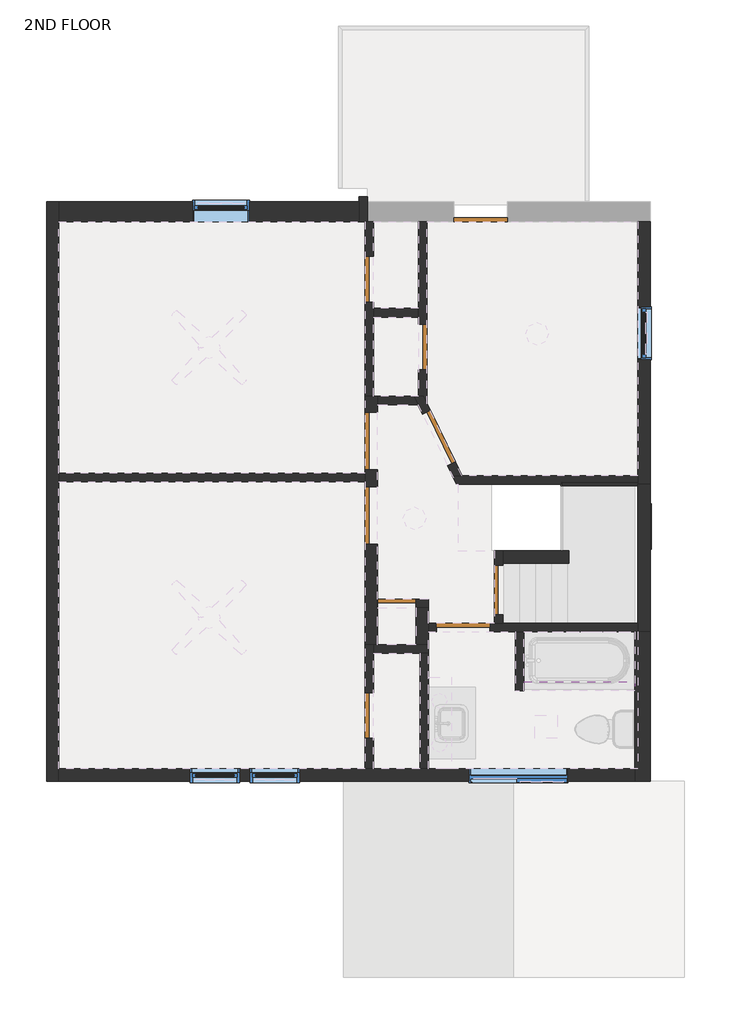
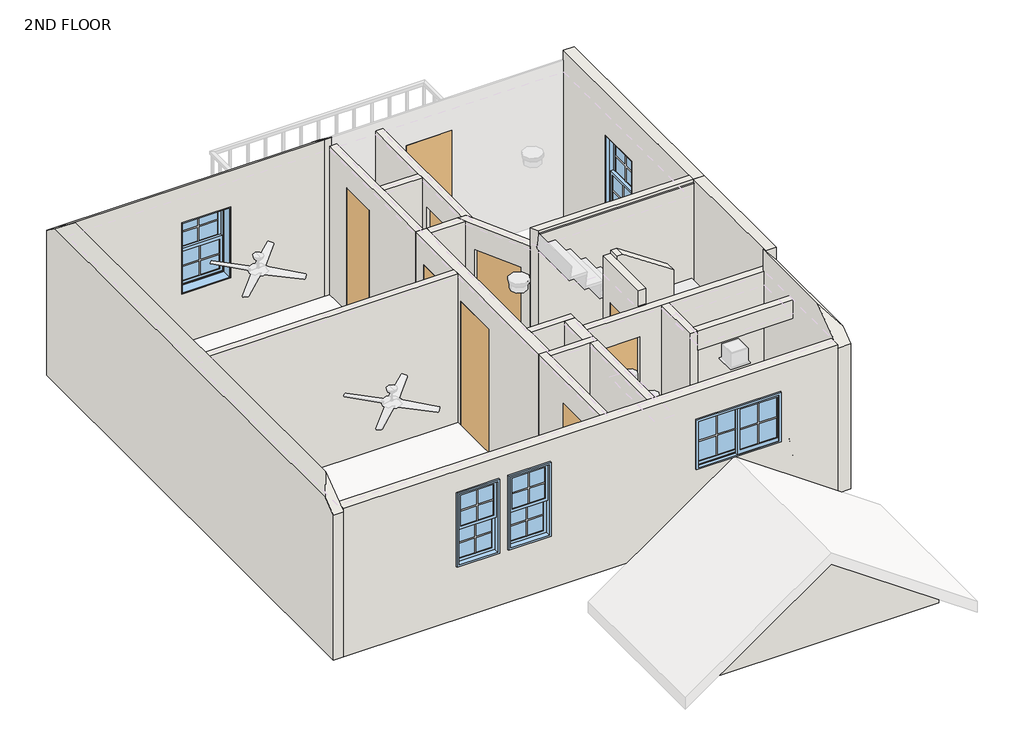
# One storey, part 1 of 2: 28 walls, 10 doors, 6 windows.
"""IFC4 building model written with IfcOpenShell, lengths in millimetres."""

from ifc_helpers import new_model, si_unit, frame, origin, place, context, project, spatial, polyline, outline, extrude, faceted_brep, transform, mapped, element, save
from components import door_faf8bfec, door_72e7b4df, door_38152ee4, door_aef79686, door_b2eef15f, door_485245ec, door_cfc43ca0, door_33e9856f, door_aa45f35f, window_1484e1a5, window_1f1c2442, window_dda3fa21, window_8e1bc891, window_968c96fe

model = new_model("IFC4")

# Units and contexts
model_context = context("Model", 3, world=origin())
ifc_project = project(units=[si_unit("LENGTHUNIT", "METRE", prefix="MILLI")], contexts=[model_context])

# Site, building, storey
site = spatial("IfcSite", under=ifc_project)
building = spatial("IfcBuilding", under=site)
storey = spatial("IfcBuildingStorey", under=building, Name="2ND FLOOR", Elevation=2895.6)

# Doors
placement = place(None, origin())
door_shape = door_faf8bfec(model_context)
element("IfcDoor", 1, ObjectType="Planitar - Single Door_Flush Panel : 2'-4\" x 6'-8\" @45", at=placement, inside=storey, context=model_context, shape_type="MappedRepresentation", body=[
    mapped(door_shape, transform((-509.2, 718.95, 2895.6), x_axis=(1.0, 0.0, 0.0), y_axis=(0.0, 1.0, 0.0), z_axis=(0.0, 0.0, 1.0))),
])
door_2_shape = door_72e7b4df(model_context)
element("IfcDoor", 2, ObjectType="Planitar - Single Door_Flush Panel : 2'-2\" x 6'-8\" @45", at=placement, inside=storey, context=model_context, shape_type="MappedRepresentation", body=[
    mapped(door_2_shape, transform((-39.3, 1220.6, 2895.6), x_axis=(0.0, -1.0, 0.0), y_axis=(1.0, 0.0, 0.0), z_axis=(0.0, 0.0, 1.0))),
])
door_3_shape = door_38152ee4(model_context)
element("IfcDoor", 3, ObjectType="Planitar - Single Door_Flush Panel : 1'-8\" x 6'-8\"", at=placement, inside=storey, context=model_context, shape_type="MappedRepresentation", body=[
    mapped(door_3_shape, transform((-1395.025, 1041.4, 2895.6), x_axis=(-1.0, 0.0, 0.0), y_axis=(0.0, -1.0, 0.0), z_axis=(0.0, 0.0, 1.0))),
])
door_4_shape = door_aef79686(model_context)
element("IfcDoor", 4, ObjectType="Planitar - Single Door_Flush Panel : 2'-0\" x 6'-8\"", at=placement, inside=storey, context=model_context, shape_type="MappedRepresentation", body=[
    mapped(door_4_shape, transform((-1760.15, 5354.45, 2895.6), x_axis=(0.0, 1.0, 0.0), y_axis=(-1.0, 0.0, 0.0), z_axis=(0.0, 0.0, 1.0))),
])
door_5_shape = door_b2eef15f(model_context)
element("IfcDoor", 5, ObjectType="Planitar - Single Door_Flush Panel : 2'-0\" x 6'-8\"", at=placement, inside=storey, context=model_context, shape_type="MappedRepresentation", body=[
    mapped(door_5_shape, transform((-1048.95, 4452.75, 2895.6), x_axis=(0.0, 1.0, 0.0), y_axis=(-1.0, 0.0, 0.0), z_axis=(0.0, 0.0, 1.0))),
])
element("IfcDoor", 6, ObjectType="Planitar - Single Door_Flush Panel : 2'-0\" x 6'-8\"", at=placement, inside=storey, context=model_context, shape_type="MappedRepresentation", body=[
    mapped(door_5_shape, transform((-1760.15, -449.45, 2895.6), x_axis=(0.0, -1.0, 0.0), y_axis=(1.0, 0.0, 0.0), z_axis=(0.0, 0.0, 1.0))),
])
door_6_shape = door_485245ec(model_context)
element("IfcDoor", 7, ObjectType="Planitar - Single Door_Flush Panel : 2'-4\" x 6'-8\"", at=placement, inside=storey, context=model_context, shape_type="MappedRepresentation", body=[
    mapped(door_6_shape, transform((-274.25, 6254.75, 2895.6), x_axis=(-1.0, 0.0, 0.0), y_axis=(0.0, -1.0, 0.0), z_axis=(0.0, 0.0, 1.0))),
])
door_7_shape = door_cfc43ca0(model_context)
element("IfcDoor", 8, ObjectType="Planitar - Single Door_Flush Panel : 2'-6\" x 6'-8\"", at=placement, inside=storey, context=model_context, shape_type="MappedRepresentation", body=[
    mapped(door_7_shape, transform((-1734.75, 2211.2, 2895.6), x_axis=(0.0, 1.0, 0.0), y_axis=(-1.0, 0.0, 0.0), z_axis=(0.0, 0.0, 1.0))),
])
door_8_shape = door_33e9856f(model_context)
element("IfcDoor", 9, ObjectType="Planitar - Single Door_Flush Panel : 2'-6\" x 6'-8\"", at=placement, inside=storey, context=model_context, shape_type="MappedRepresentation", body=[
    mapped(door_8_shape, transform((-1734.75, 3201.8, 2895.6), x_axis=(0.0, -1.0, 0.0), y_axis=(1.0, 0.0, 0.0), z_axis=(0.0, 0.0, 1.0))),
])
door_9_shape = door_aa45f35f(model_context)
element("IfcDoor", 10, ObjectType="Planitar - Single Door_Flush Panel : 2'-6\" x 6'-8\"", at=placement, inside=storey, context=model_context, shape_type="MappedRepresentation", body=[
    mapped(door_9_shape, transform((-833.0708063, 3241.3698882, 2895.6), x_axis=(0.4363531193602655, -0.8997755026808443, 0.0), y_axis=(0.8997755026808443, 0.4363531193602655, 0.0), z_axis=(0.0, 0.0, 1.0))),
])

# Walls
element("IfcWall", 11, ObjectType="Planitar - Generic 6 1/2\"", at=placement, inside=storey, context=model_context, shape_type="Brep", body=[
    faceted_brep([(-5894.0, -1327.15, 2895.6), (-5894.0, -1162.05, 2895.6), (-5894.0, 2662.05, 2895.6), (-5894.0, 2776.35, 2895.6), (-5894.0, 6121.4, 2895.6), (-5894.0, 6388.1, 2895.6), (-5894.0, 6388.1, 5275.8325877), (-5894.0, 6121.4, 5470.8422803), (-5894.0, 5897.0845627, 5634.8605948), (-5894.0, -836.1345627, 5634.8605948), (-5894.0, -1327.15, 5275.8325877), (-6059.1, -1327.15, 2895.6), (-6059.1, -1327.15, 5275.8325877), (-6059.1, -1105.226299, 5438.1020766), (-6059.1, 6166.176299, 5438.1020766), (-6059.1, 6388.1, 5275.8325877), (-6059.1, 6388.1, 2895.6)], [[[0, 1, 2, 3, 4, 5, 6, 7, 8, 9, 10]], [[11, 12, 13, 14, 15, 16]], [[5, 4, 3, 2, 1, 0, 11, 16]], [[6, 5, 16, 15]], [[0, 10, 12, 11]], [[10, 9, 13, 12]], [[9, 8, 14, 13]], [[8, 7, 6, 15, 14]]]),
])
element("IfcWall", 12, ObjectType="Planitar - Generic 10 1/2\"", at=placement, inside=storey, context=model_context, shape_type="Brep", body=[
    faceted_brep([(-5894.0, 6121.4, 2895.6), (-1899.85, 6121.4, 2895.6), (-1899.85, 6121.4, 5470.8422803), (-5894.0, 6121.4, 5470.8422803), (-4116.0, 6121.4, 4876.8), (-3354.0, 6121.4, 4876.8), (-3354.0, 6121.4, 3708.4), (-4116.0, 6121.4, 3708.4), (-5894.0, 6388.1, 2895.6), (-5894.0, 6388.1, 5275.8325877), (-2344.35, 6388.1, 5275.8325877), (-2230.05, 6388.1, 5275.8325877), (-1899.85, 6388.1, 5275.8325877), (-1899.85, 6388.1, 2895.6), (-4116.0, 6388.1, 4876.8), (-4116.0, 6388.1, 3708.4), (-3354.0, 6388.1, 3708.4), (-3354.0, 6388.1, 4876.8)], [[[0, 1, 2, 3], [4, 5, 6, 7]], [[8, 9, 10, 11, 12, 13], [14, 15, 16, 17]], [[1, 0, 8, 13]], [[0, 3, 9, 8]], [[15, 14, 4, 7]], [[16, 15, 7, 6]], [[17, 16, 6, 5]], [[14, 17, 5, 4]], [[3, 2, 12, 11, 10, 9]], [[2, 1, 13, 12]]]),
])
element("IfcWall", 13, ObjectType="Planitar - Generic 6 1/2\"", at=placement, inside=storey, context=model_context, shape_type="Brep", body=[
    faceted_brep([(1814.9, 6121.4, 2895.6), (1814.9, 2738.25, 2895.6), (1814.9, 2623.95, 2895.6), (1814.9, 2623.95, 5638.8), (1814.9, 2738.25, 5638.8), (1814.9, 6121.4, 5638.8), (1814.9, 4992.5, 4927.6), (1814.9, 4281.3, 4927.6), (1814.9, 4281.3, 3708.4), (1814.9, 4992.5, 3708.4), (1980.0, 6121.4, 2895.6), (1980.0, 6121.4, 5438.1020766), (1980.0, 6121.4, 5638.8), (1980.0, 2623.95, 5638.8), (1980.0, 2623.95, 2895.6), (1980.0, 4992.5, 4927.6), (1980.0, 4992.5, 3708.4), (1980.0, 4281.3, 3708.4), (1980.0, 4281.3, 4927.6)], [[[0, 1, 2, 3, 4, 5], [6, 7, 8, 9]], [[10, 11, 12, 13, 14], [15, 16, 17, 18]], [[2, 1, 0, 10, 14]], [[5, 4, 3, 13, 12]], [[0, 5, 12, 11, 10]], [[16, 15, 6, 9]], [[17, 16, 9, 8]], [[18, 17, 8, 7]], [[15, 18, 7, 6]], [[2, 14, 13, 3]]]),
])
element("IfcWall", 14, ObjectType="Planitar - Generic 6 1/2\"", at=placement, inside=storey, context=model_context, shape_type="Brep", body=[
    faceted_brep([(1776.8, -1162.05, 2895.6), (-972.75, -1162.05, 2895.6), (-1087.05, -1162.05, 2895.6), (-1703.0, -1162.05, 2895.6), (-1817.3, -1162.05, 2895.6), (-5894.0, -1162.05, 2895.6), (-5894.0, -1162.05, 5334.0), (-1817.3, -1162.05, 5334.0), (-1703.0, -1162.05, 5334.0), (-1087.05, -1162.05, 5334.0), (-972.75, -1162.05, 5334.0), (1776.8, -1162.05, 5334.0), (-433.0, -1162.05, 4876.8), (-433.0, -1162.05, 4064.0), (887.8, -1162.05, 4064.0), (887.8, -1162.05, 4876.8), (-2687.25, -1162.05, 4978.4), (-3347.65, -1162.05, 4978.4), (-3347.65, -1162.05, 3759.2), (-2687.25, -1162.05, 3759.2), (-3487.35, -1162.05, 4978.4), (-4147.75, -1162.05, 4978.4), (-4147.75, -1162.05, 3759.2), (-3487.35, -1162.05, 3759.2), (1776.8, -1327.15, 2895.6), (1776.8, -1327.15, 5275.8325877), (1776.8, -1327.15, 5334.0), (-5894.0, -1327.15, 5334.0), (-5894.0, -1327.15, 5275.8325877), (-5894.0, -1327.15, 2895.6), (-433.0, -1327.15, 4876.8), (887.8, -1327.15, 4876.8), (887.8, -1327.15, 4064.0), (-433.0, -1327.15, 4064.0), (-2687.25, -1327.15, 4978.4), (-2687.25, -1327.15, 3759.2), (-3347.65, -1327.15, 3759.2), (-3347.65, -1327.15, 4978.4), (-3487.35, -1327.15, 4978.4), (-3487.35, -1327.15, 3759.2), (-4147.75, -1327.15, 3759.2), (-4147.75, -1327.15, 4978.4)], [[[0, 1, 2, 3, 4, 5, 6, 7, 8, 9, 10, 11], [12, 13, 14, 15], [16, 17, 18, 19], [20, 21, 22, 23]], [[24, 25, 26, 27, 28, 29], [30, 31, 32, 33], [34, 35, 36, 37], [38, 39, 40, 41]], [[0, 11, 26, 25, 24]], [[6, 5, 29, 28, 27]], [[13, 12, 30, 33]], [[14, 13, 33, 32]], [[15, 14, 32, 31]], [[12, 15, 31, 30]], [[35, 34, 16, 19]], [[36, 35, 19, 18]], [[37, 36, 18, 17]], [[34, 37, 17, 16]], [[39, 38, 20, 23]], [[40, 39, 23, 22]], [[41, 40, 22, 21]], [[38, 41, 21, 20]], [[5, 4, 3, 2, 1, 0, 24, 29]], [[11, 10, 9, 8, 7, 6, 27, 26]]]),
])
element("IfcWall", 15, ObjectType="Planitar - Generic 4 1/2\"", at=placement, inside=storey, context=model_context, shape_type="Brep", body=[
    faceted_brep([(-1703.0, -1162.05, 2895.6), (-1703.0, -754.25, 2895.6), (-1703.0, -754.25, 4927.6), (-1703.0, -144.65, 4927.6), (-1703.0, -144.65, 2895.6), (-1703.0, 374.65, 2895.6), (-1703.0, 488.95, 2895.6), (-1703.0, 488.95, 5334.0), (-1703.0, 374.65, 5334.0), (-1703.0, -1162.05, 5334.0), (-1817.3, -754.25, 4927.6), (-1817.3, -754.25, 2895.6), (-1817.3, -1162.05, 2895.6), (-1817.3, -1162.05, 5334.0), (-1817.3, 488.95, 5334.0), (-1817.3, 488.95, 2895.6), (-1817.3, -144.65, 2895.6), (-1817.3, -144.65, 4927.6)], [[[0, 1, 2, 3, 4, 5, 6, 7, 8, 9]], [[10, 11, 12, 13, 14, 15, 16, 17]], [[16, 15, 6, 5, 4]], [[12, 11, 1, 0]], [[9, 8, 7, 14, 13]], [[0, 9, 13, 12]], [[7, 6, 15, 14]], [[2, 1, 11, 10]], [[3, 2, 10, 17]], [[4, 3, 17, 16]]]),
])
element("IfcWall", 16, ObjectType="Planitar - Generic 4 1/2\"", at=placement, inside=storey, context=model_context, shape_type="SweptSolid", body=[
    extrude(outline(polyline([(-1817.3, 2662.05), (-5894.0, 2662.05), (-5894.0, 2776.35), (-1817.3, 2776.35), (-1817.3, 2662.05)])), frame((0.0, 0.0, 2895.6), z_axis=(0.0, 0.0, 1.0), x_axis=(1.0, 0.0, 0.0)), (0.0, 0.0, 1.0), 2438.4),
])
element("IfcWall", 17, ObjectType="Planitar - Generic 6 1/2\"", at=placement, inside=storey, context=model_context, shape_type="Brep", body=[
    faceted_brep([(-1652.2, 2592.2, 2895.6), (-1652.2, 2820.8, 2895.6), (-1652.2, 2820.8, 4927.6), (-1652.2, 3582.8, 4927.6), (-1652.2, 3582.8, 2895.6), (-1652.2, 3684.4, 2895.6), (-1652.2, 3798.7, 2895.6), (-1652.2, 3798.7, 5334.0), (-1652.2, 3684.4, 5334.0), (-1652.2, 1098.55, 5334.0), (-1652.2, 984.25, 5334.0), (-1652.2, 488.95, 5334.0), (-1652.2, 488.95, 2895.6), (-1652.2, 984.25, 2895.6), (-1652.2, 1098.55, 2895.6), (-1652.2, 1830.2, 2895.6), (-1652.2, 1830.2, 4927.6), (-1652.2, 2592.2, 4927.6), (-1817.3, 2820.8, 4927.6), (-1817.3, 2820.8, 2895.6), (-1817.3, 2776.35, 2895.6), (-1817.3, 2662.05, 2895.6), (-1817.3, 2592.2, 2895.6), (-1817.3, 2592.2, 4927.6), (-1817.3, 1830.2, 4927.6), (-1817.3, 1830.2, 2895.6), (-1817.3, 488.95, 2895.6), (-1817.3, 488.95, 5334.0), (-1817.3, 2662.05, 5334.0), (-1817.3, 2776.35, 5334.0), (-1817.3, 3798.7, 5334.0), (-1817.3, 3798.7, 2895.6), (-1817.3, 3582.8, 2895.6), (-1817.3, 3582.8, 4927.6), (-1703.0, 488.95, 2895.6), (-1703.0, 3798.7, 2895.6), (-1703.0, 3798.7, 5334.0), (-1703.0, 488.95, 5334.0)], [[[0, 1, 2, 3, 4, 5, 6, 7, 8, 9, 10, 11, 12, 13, 14, 15, 16, 17]], [[18, 19, 20, 21, 22, 23, 24, 25, 26, 27, 28, 29, 30, 31, 32, 33]], [[15, 14, 13, 12, 34, 26, 25]], [[32, 31, 35, 6, 5, 4]], [[22, 21, 20, 19, 1, 0]], [[11, 10, 9, 8, 7, 36, 30, 29, 28, 27, 37]], [[12, 11, 37, 27, 26, 34]], [[7, 6, 35, 31, 30, 36]], [[23, 22, 0, 17]], [[24, 23, 17, 16]], [[25, 24, 16, 15]], [[2, 1, 19, 18]], [[3, 2, 18, 33]], [[4, 3, 33, 32]]]),
])
element("IfcWall", 18, ObjectType="Planitar - Generic 4 1/2\"", at=placement, inside=storey, context=model_context, shape_type="Brep", body=[
    faceted_brep([(-1703.0, 5659.25, 4927.6), (-1703.0, 5659.25, 2895.6), (-1703.0, 6121.4, 2895.6), (-1703.0, 6121.4, 5334.0), (-1703.0, 4967.1, 5334.0), (-1703.0, 4852.8, 5334.0), (-1703.0, 3798.7, 5334.0), (-1703.0, 3798.7, 2895.6), (-1703.0, 4852.8, 2895.6), (-1703.0, 4967.1, 2895.6), (-1703.0, 5049.65, 2895.6), (-1703.0, 5049.65, 4927.6), (-1817.3, 6121.4, 2895.6), (-1817.3, 5659.25, 2895.6), (-1817.3, 5659.25, 4927.6), (-1817.3, 5049.65, 4927.6), (-1817.3, 5049.65, 2895.6), (-1817.3, 3798.7, 2895.6), (-1817.3, 3798.7, 5334.0), (-1817.3, 6121.4, 5334.0), (-1785.55, 6121.4, 2895.6)], [[[0, 1, 2, 3, 4, 5, 6, 7, 8, 9, 10, 11]], [[12, 13, 14, 15, 16, 17, 18, 19]], [[2, 1, 13, 12, 20]], [[10, 9, 8, 7, 17, 16]], [[6, 5, 4, 3, 19, 18]], [[7, 6, 18, 17]], [[14, 13, 1, 0]], [[15, 14, 0, 11]], [[16, 15, 11, 10]], [[3, 2, 20, 12, 19]]]),
])
element("IfcWall", 19, ObjectType="Planitar - Generic 4 1/2\"", at=placement, inside=storey, context=model_context, shape_type="Brep", body=[
    faceted_brep([(-1703.0, 374.65, 2895.6), (-1087.05, 374.65, 2895.6), (-972.75, 374.65, 2895.6), (-972.75, 374.65, 5334.0), (-1087.05, 374.65, 5334.0), (-1703.0, 374.65, 5334.0), (-1703.0, 488.95, 2895.6), (-1703.0, 488.95, 5334.0), (-1652.2, 488.95, 5334.0), (-1137.85, 488.95, 5334.0), (-972.75, 488.95, 5334.0), (-972.75, 488.95, 2895.6), (-1137.85, 488.95, 2895.6), (-1652.2, 488.95, 2895.6)], [[[0, 1, 2, 3, 4, 5]], [[6, 7, 8, 9, 10, 11, 12, 13]], [[2, 1, 0, 6, 13, 12, 11]], [[5, 4, 3, 10, 9, 8, 7]], [[3, 2, 11, 10]], [[0, 5, 7, 6]]]),
])
element("IfcWall", 20, ObjectType="Planitar - Generic 6 1/2\"", at=placement, inside=storey, context=model_context, shape_type="Brep", body=[
    faceted_brep([(-1137.85, 984.25, 2895.6), (-1137.85, 488.95, 2895.6), (-1137.85, 488.95, 5334.0), (-1137.85, 984.25, 5334.0), (-972.75, 984.25, 2895.6), (-972.75, 984.25, 5334.0), (-972.75, 776.1, 5334.0), (-972.75, 661.8, 5334.0), (-972.75, 488.95, 5334.0), (-972.75, 488.95, 2895.6), (-972.75, 661.8, 2895.6), (-972.75, 776.1, 2895.6)], [[[0, 1, 2, 3]], [[4, 5, 6, 7, 8, 9, 10, 11]], [[1, 0, 4, 11, 10, 9]], [[3, 2, 8, 7, 6, 5]], [[0, 3, 5, 4]], [[2, 1, 9, 8]]]),
])
element("IfcWall", 21, ObjectType="Planitar - Generic 4 1/2\"", at=placement, inside=storey, context=model_context, shape_type="Brep", body=[
    faceted_brep([(-1652.2, 984.25, 2895.6), (-1649.025, 984.25, 2895.6), (-1649.025, 984.25, 4927.6), (-1141.025, 984.25, 4927.6), (-1141.025, 984.25, 2895.6), (-1137.85, 984.25, 2895.6), (-972.75, 984.25, 2895.6), (-972.75, 984.25, 5334.0), (-1137.85, 984.25, 5334.0), (-1652.2, 984.25, 5334.0), (-1649.025, 1098.55, 4927.6), (-1649.025, 1098.55, 2895.6), (-1652.2, 1098.55, 2895.6), (-1652.2, 1098.55, 5334.0), (-972.75, 1098.55, 5334.0), (-972.75, 1098.55, 2895.6), (-1141.025, 1098.55, 2895.6), (-1141.025, 1098.55, 4927.6)], [[[0, 1, 2, 3, 4, 5, 6, 7, 8, 9]], [[10, 11, 12, 13, 14, 15, 16, 17]], [[16, 15, 6, 5, 4]], [[12, 11, 1, 0]], [[9, 8, 7, 14, 13]], [[0, 9, 13, 12]], [[7, 6, 15, 14]], [[2, 1, 11, 10]], [[3, 2, 10, 17]], [[4, 3, 17, 16]]]),
])
element("IfcWall", 22, ObjectType="Planitar - Generic 4 1/2\"", at=placement, inside=storey, context=model_context, shape_type="SweptSolid", body=[
    extrude(outline(polyline([(-1087.05, -1162.05), (-1087.05, 374.65), (-972.75, 374.65), (-972.75, -1162.05), (-1087.05, -1162.05)])), frame((0.0, 0.0, 2895.6), z_axis=(0.0, 0.0, 1.0), x_axis=(1.0, 0.0, 0.0)), (0.0, 0.0, 1.0), 2438.4),
])
element("IfcWall", 23, ObjectType="Planitar - Generic 6 1/2\"", at=placement, inside=storey, context=model_context, shape_type="Brep", body=[
    faceted_brep([(1814.9, 683.2, 5638.8), (1814.9, 2623.95, 5638.8), (1814.9, 2623.95, 2895.6), (1814.9, 2369.95, 2895.6), (1814.9, 2369.95, 3505.2), (1814.9, 1760.35, 3505.2), (1814.9, 1760.35, 2895.6), (1814.9, 776.1, 2895.6), (1814.9, 661.8, 2895.6), (1814.9, 661.8, 5334.0), (1814.9, 683.2, 5334.0), (1814.9, 683.2, 5634.8605948), (1980.0, 2623.95, 5638.8), (1980.0, 683.2, 5638.8), (1980.0, 683.2, 5438.1020766), (1980.0, 683.2, 5334.0), (1980.0, 661.8, 5334.0), (1980.0, 661.8, 2895.6), (1980.0, 1760.35, 2895.6), (1980.0, 1760.35, 3505.2), (1980.0, 2369.95, 3505.2), (1980.0, 2369.95, 2895.6), (1980.0, 2623.95, 2895.6)], [[[0, 1, 2, 3, 4, 5, 6, 7, 8, 9, 10, 11]], [[12, 13, 14, 15, 16, 17, 18, 19, 20, 21, 22]], [[2, 22, 21, 3]], [[8, 7, 6, 18, 17]], [[1, 0, 13, 12]], [[10, 9, 16, 15]], [[20, 4, 3, 21]], [[5, 19, 18, 6]], [[4, 20, 19, 5]], [[8, 17, 16, 9]], [[13, 0, 11, 10, 15, 14]], [[22, 2, 1, 12]]]),
])
element("IfcWall", 24, ObjectType="Planitar - Generic 4 1/2\"", at=placement, inside=storey, context=model_context, shape_type="Brep", body=[
    faceted_brep([(1814.9, 776.1, 2895.6), (900.5, 776.1, 2895.6), (735.4, 776.1, 2895.6), (17.85, 776.1, 2895.6), (-96.45, 776.1, 2895.6), (-153.6, 776.1, 2895.6), (-153.6, 776.1, 4927.6), (-864.8, 776.1, 4927.6), (-864.8, 776.1, 2895.6), (-972.75, 776.1, 2895.6), (-972.75, 776.1, 5334.0), (-96.45, 776.1, 5334.0), (17.85, 776.1, 5334.0), (1814.9, 776.1, 5334.0), (-153.6, 661.8, 4927.6), (-153.6, 661.8, 2895.6), (182.95, 661.8, 2895.6), (297.25, 661.8, 2895.6), (1776.8, 661.8, 2895.6), (1814.9, 661.8, 2895.6), (1814.9, 661.8, 5334.0), (1776.8, 661.8, 5334.0), (297.25, 661.8, 5334.0), (182.95, 661.8, 5334.0), (-972.75, 661.8, 5334.0), (-972.75, 661.8, 2895.6), (-864.8, 661.8, 2895.6), (-864.8, 661.8, 4927.6), (1814.9, 683.2, 5334.0)], [[[0, 1, 2, 3, 4, 5, 6, 7, 8, 9, 10, 11, 12, 13]], [[14, 15, 16, 17, 18, 19, 20, 21, 22, 23, 24, 25, 26, 27]], [[26, 25, 9, 8]], [[19, 18, 17, 16, 15, 5, 4, 3, 2, 1, 0]], [[13, 12, 11, 10, 24, 23, 22, 21, 20, 28]], [[10, 9, 25, 24]], [[6, 5, 15, 14]], [[7, 6, 14, 27]], [[8, 7, 27, 26]], [[0, 13, 28, 20, 19]]]),
])
element("IfcWall", 25, ObjectType="Planitar - Generic 4 1/2\"", at=placement, inside=storey, context=model_context, shape_type="Brep", body=[
    faceted_brep([(297.25, -119.25, 2895.6), (297.25, 661.8, 2895.6), (297.25, 661.8, 5334.0), (297.25, -4.95, 5334.0), (297.25, -119.25, 5334.0), (297.25, -119.25, 5029.2), (182.95, -119.25, 2895.6), (182.95, -119.25, 5334.0), (182.95, 661.8, 5334.0), (182.95, 661.8, 2895.6)], [[[0, 1, 2, 3, 4, 5]], [[6, 7, 8, 9]], [[1, 0, 6, 9]], [[4, 3, 2, 8, 7]], [[2, 1, 9, 8]], [[0, 5, 4, 7, 6]]]),
])
element("IfcWall", 26, ObjectType="Planitar - Generic 4 1/2\"", at=placement, inside=storey, context=model_context, shape_type="Brep", body=[
    faceted_brep([(17.85, 776.1, 2895.6), (17.85, 890.4, 2895.6), (17.85, 890.4, 4927.6), (17.85, 1550.8, 4927.6), (17.85, 1550.8, 2895.6), (17.85, 1576.2, 2895.6), (17.85, 1741.3, 2895.6), (17.85, 1741.3, 5588.0), (17.85, 797.5, 5588.0), (17.85, 797.5, 5334.0), (17.85, 776.1, 5334.0), (-96.45, 890.4, 4927.6), (-96.45, 890.4, 2895.6), (-96.45, 776.1, 2895.6), (-96.45, 776.1, 5334.0), (-96.45, 797.5, 5334.0), (-96.45, 797.5, 5588.0), (-96.45, 1741.3, 5588.0), (-96.45, 1741.3, 2895.6), (-96.45, 1550.8, 2895.6), (-96.45, 1550.8, 4927.6)], [[[0, 1, 2, 3, 4, 5, 6, 7, 8, 9, 10]], [[11, 12, 13, 14, 15, 16, 17, 18, 19, 20]], [[19, 18, 6, 5, 4]], [[13, 12, 1, 0]], [[8, 7, 17, 16]], [[7, 6, 18, 17]], [[2, 1, 12, 11]], [[3, 2, 11, 20]], [[4, 3, 20, 19]], [[9, 15, 14, 10]], [[0, 10, 14, 13]], [[9, 8, 16, 15]]]),
])
element("IfcWall", 27, ObjectType="Planitar - Generic 6 1/2\"", at=placement, inside=storey, context=model_context, shape_type="Brep", body=[
    faceted_brep([(17.85, 1576.2, 2895.6), (735.4, 1576.2, 2895.6), (900.5, 1576.2, 2895.6), (900.5, 1576.2, 3632.2), (900.5, 1576.2, 5107.6919938), (113.1, 1576.2, 5638.8), (17.85, 1576.2, 5638.8), (17.85, 1741.3, 2895.6), (17.85, 1741.3, 5588.0), (17.85, 1741.3, 5638.8), (113.1, 1741.3, 5638.8), (900.5, 1741.3, 5107.6919938), (900.5, 1741.3, 2895.6)], [[[0, 1, 2, 3, 4, 5, 6]], [[7, 8, 9, 10, 11, 12]], [[0, 6, 9, 8, 7]], [[4, 3, 2, 12, 11]], [[2, 1, 0, 7, 12]], [[6, 5, 10, 9]], [[5, 4, 11, 10]]]),
])
element("IfcWall", 28, ObjectType="Planitar - Generic 6 1/2\"", at=placement, inside=storey, context=model_context, shape_type="SweptSolid", body=[
    extrude(outline(polyline([(735.4, 776.1), (735.4, 1576.2), (900.5, 1576.2), (900.5, 776.1), (735.4, 776.1)])), frame((0.0, 0.0, 2895.6), z_axis=(0.0, 0.0, 1.0), x_axis=(1.0, 0.0, 0.0)), (0.0, 0.0, 1.0), 736.6),
])
element("IfcWall", 29, ObjectType="Planitar - Generic 4 1/2\"", at=placement, inside=storey, context=model_context, shape_type="Brep", body=[
    faceted_brep([(1814.9, 2738.25, 2895.6), (-525.5630649, 2738.25, 2895.6), (-652.5947518, 2738.25, 2895.6), (-652.5947518, 2738.25, 5334.0), (-652.5947518, 2738.25, 5638.8), (1814.9, 2738.25, 5638.8), (-597.164079, 2623.95, 2895.6), (1814.9, 2623.95, 2895.6), (1814.9, 2623.95, 3988.6), (792.3800664, 2623.95, 3988.6), (817.3800664, 2623.95, 4217.2), (556.674894, 2623.95, 4217.2), (581.674894, 2623.95, 4445.8), (320.9697216, 2623.95, 4445.8), (345.9697216, 2623.95, 4674.4), (85.2645492, 2623.95, 4674.4), (110.2645492, 2623.95, 4903.0), (-150.4406233, 2623.95, 4903.0), (-125.4406233, 2623.95, 5131.6), (-386.1457957, 2623.95, 5131.6), (-361.1457957, 2623.95, 5360.2), (-597.164079, 2623.95, 5360.2), (1814.9, 2623.95, 5638.8), (-597.164079, 2623.95, 5638.8), (-597.164079, 2623.95, 5470.9554374), (-584.3639299, 2623.95, 5588.0), (1814.9, 2623.95, 5588.0), (-609.2764409, 2648.9261169, 5360.2), (1814.9, 2655.7, 5588.0), (1814.9, 2655.7, 3988.6), (792.3800664, 2655.7, 3988.6), (-584.3639299, 2655.7, 5588.0), (-609.2764409, 2655.7, 5360.2), (-361.1457957, 2655.7, 5360.2), (-386.1457957, 2655.7, 5131.6), (-125.4406233, 2655.7, 5131.6), (-150.4406233, 2655.7, 4903.0), (110.2645492, 2655.7, 4903.0), (85.2645492, 2655.7, 4674.4), (345.9697216, 2655.7, 4674.4), (320.9697216, 2655.7, 4445.8), (581.674894, 2655.7, 4445.8), (556.674894, 2655.7, 4217.2), (817.3800664, 2655.7, 4217.2)], [[[0, 1, 2, 3, 4, 5]], [[6, 7, 8, 9, 10, 11, 12, 13, 14, 15, 16, 17, 18, 19, 20, 21]], [[22, 23, 24, 25, 26]], [[2, 1, 0, 7, 6]], [[5, 4, 23, 22]], [[4, 3, 2, 6, 21, 27, 24, 23]], [[5, 22, 26, 28, 29, 8, 7, 0]], [[30, 29, 28, 31, 32, 33, 34, 35, 36, 37, 38, 39, 40, 41, 42, 43]], [[31, 28, 26, 25]], [[33, 32, 27, 21, 20]], [[34, 33, 20, 19]], [[35, 34, 19, 18]], [[36, 35, 18, 17]], [[37, 36, 17, 16]], [[38, 37, 16, 15]], [[39, 38, 15, 14]], [[40, 39, 14, 13]], [[41, 40, 13, 12]], [[42, 41, 12, 11]], [[43, 42, 11, 10]], [[30, 43, 10, 9]], [[29, 30, 9, 8]], [[32, 31, 25, 24, 27]]]),
])
element("IfcWall", 30, ObjectType="Planitar - Generic 4 1/2\"", at=placement, inside=storey, context=model_context, shape_type="Brep", body=[
    faceted_brep([(-718.2424378, 2873.6178409, 4927.6), (-718.2424378, 2873.6178409, 2895.6), (-652.5947518, 2738.25, 2895.6), (-652.5947518, 2738.25, 5334.0), (-1111.4375439, 3684.4, 5334.0), (-1166.8682168, 3798.7, 5334.0), (-1166.8682168, 3798.7, 2895.6), (-1111.4375439, 3684.4, 2895.6), (-1050.7435147, 3559.2467739, 2895.6), (-1050.7435147, 3559.2467739, 4927.6), (-525.5630649, 2738.25, 2895.6), (-615.3980978, 2923.4930024, 2895.6), (-615.3980978, 2923.4930024, 4927.6), (-947.8991748, 3609.1219354, 4927.6), (-947.8991748, 3609.1219354, 2895.6), (-991.8, 3699.6469835, 2895.6), (-1039.8365298, 3798.7, 2895.6), (-1039.8365298, 3798.7, 5334.0), (-991.8, 3699.6469835, 5334.0), (-525.5630649, 2738.25, 5334.0), (-1106.1, 3798.7, 2895.6), (-1106.1, 3798.7, 5334.0)], [[[0, 1, 2, 3, 4, 5, 6, 7, 8, 9]], [[10, 11, 12, 13, 14, 15, 16, 17, 18, 19]], [[2, 1, 11, 10]], [[8, 7, 6, 20, 16, 15, 14]], [[5, 4, 3, 19, 18, 17, 21]], [[3, 2, 10, 19]], [[6, 5, 21, 17, 16, 20]], [[12, 11, 1, 0]], [[13, 12, 0, 9]], [[14, 13, 9, 8]]]),
])
element("IfcWall", 31, ObjectType="Planitar - Generic 4 1/2\"", at=placement, inside=storey, context=model_context, shape_type="SweptSolid", body=[
    extrude(outline(polyline([(-1652.2, 3798.7), (-1166.8682168, 3798.7), (-1111.4375439, 3684.4), (-1652.2, 3684.4), (-1652.2, 3798.7)])), frame((0.0, 0.0, 2895.6), z_axis=(0.0, 0.0, 1.0), x_axis=(1.0, 0.0, 0.0)), (0.0, 0.0, 1.0), 2438.4),
])
element("IfcWall", 32, ObjectType="Planitar - Generic 4 1/2\"", at=placement, inside=storey, context=model_context, shape_type="Brep", body=[
    faceted_brep([(-991.8, 4757.55, 4927.6), (-991.8, 4757.55, 2895.6), (-991.8, 6121.4, 2895.6), (-991.8, 6121.4, 5334.0), (-991.8, 3699.6469835, 5334.0), (-991.8, 3699.6469835, 2895.6), (-991.8, 4147.95, 2895.6), (-991.8, 4147.95, 4927.6), (-1106.1, 6121.4, 2895.6), (-1106.1, 4967.1, 2895.6), (-1106.1, 4852.8, 2895.6), (-1106.1, 4757.55, 2895.6), (-1106.1, 4757.55, 4927.6), (-1106.1, 4147.95, 4927.6), (-1106.1, 4147.95, 2895.6), (-1106.1, 3798.7, 2895.6), (-1106.1, 3798.7, 5334.0), (-1106.1, 4852.8, 5334.0), (-1106.1, 4967.1, 5334.0), (-1106.1, 6121.4, 5334.0), (-1039.8365298, 3798.7, 2895.6), (-1039.8365298, 3798.7, 5334.0)], [[[0, 1, 2, 3, 4, 5, 6, 7]], [[8, 9, 10, 11, 12, 13, 14, 15, 16, 17, 18, 19]], [[6, 5, 20, 15, 14]], [[2, 1, 11, 10, 9, 8]], [[4, 3, 19, 18, 17, 16, 21]], [[3, 2, 8, 19]], [[5, 4, 21, 20]], [[21, 16, 15, 20]], [[12, 11, 1, 0]], [[13, 12, 0, 7]], [[14, 13, 7, 6]]]),
])
element("IfcWall", 33, ObjectType="Planitar - Generic 4 1/2\"", at=placement, inside=storey, context=model_context, shape_type="SweptSolid", body=[
    extrude(outline(polyline([(-1703.0, 4967.1), (-1106.1, 4967.1), (-1106.1, 4852.8), (-1703.0, 4852.8), (-1703.0, 4967.1)])), frame((0.0, 0.0, 2895.6), z_axis=(0.0, 0.0, 1.0), x_axis=(1.0, 0.0, 0.0)), (0.0, 0.0, 1.0), 2438.4),
])
element("IfcWall", 34, ObjectType="Planitar - Generic 8\"", at=placement, inside=storey, context=model_context, shape_type="Brep", body=[
    faceted_brep([(1776.8, 661.8, 2895.6), (1776.8, -1162.05, 2895.6), (1776.8, -1327.15, 2895.6), (1776.8, -1327.15, 5275.8325877), (1776.8, -774.0364697, 5680.2664067), (1776.8, 683.2, 5680.2664067), (1776.8, 683.2, 5334.0), (1776.8, 661.8, 5334.0), (1980.0, 661.8, 2895.6), (1980.0, 661.8, 5334.0), (1980.0, 683.2, 5334.0), (1980.0, 683.2, 5438.1020766), (1980.0, -1105.226299, 5438.1020766), (1980.0, -1327.15, 5275.8325877), (1980.0, -1327.15, 2895.6), (1814.9, 661.8, 2895.6), (1814.9, 683.2, 5634.8605948), (1814.9, 683.2, 5334.0), (1814.9, 661.8, 5334.0)], [[[0, 1, 2, 3, 4, 5, 6, 7]], [[8, 9, 10, 11, 12, 13, 14]], [[2, 1, 0, 15, 8, 14]], [[3, 2, 14, 13]], [[5, 4, 12, 11, 16]], [[4, 3, 13, 12]], [[6, 17, 10, 9, 18, 7]], [[0, 7, 18, 9, 8, 15]], [[6, 5, 16, 11, 10, 17]]]),
])
element("IfcWall", 35, ObjectType="Planitar - Generic 4 1/2\"", at=placement, inside=storey, context=model_context, shape_type="Brep", body=[
    faceted_brep([(-1785.55, 6121.4, 5470.8422803), (-1785.55, 6121.4, 2895.6), (-1785.55, 6388.1, 2895.6), (-1785.55, 6453.0, 2895.6), (-1785.55, 6453.0, 5228.3780355), (-1785.55, 6388.1, 5275.8325877), (-1899.85, 6121.4, 2895.6), (-1899.85, 6121.4, 5470.8422803), (-1899.85, 6388.1, 5275.8325877), (-1899.85, 6453.0, 5228.3780355), (-1899.85, 6453.0, 2895.6), (-1899.85, 6388.1, 2895.6), (-1817.3, 6121.4, 2895.6), (-1868.1, 6453.0, 2895.6)], [[[0, 1, 2, 3, 4, 5]], [[6, 7, 8, 9, 10, 11]], [[3, 2, 1, 12, 6, 11, 10, 13]], [[0, 7, 6, 12, 1]], [[0, 5, 4, 9, 8, 7]], [[4, 3, 13, 10, 9]]]),
])
element("IfcWall", 36, ObjectType="Planitar - Generic 4 1/2\"", at=placement, inside=storey, context=model_context, shape_type="SweptSolid", body=[
    extrude(outline(polyline([(2286.0, -1618.1554062), (2286.0, 2100.65), (2521.654847, 2100.65), (3875.5586377, 167.075), (2625.5268498, -1618.1554062), (2286.0, -1618.1554062)])), frame((0.0, -3479.8, 0.0), z_axis=(0.0, 1.0, 0.0), x_axis=(0.0, 0.0, 1.0)), (0.0, 0.0, 1.0), 114.3),
])
element("IfcWall", 37, ObjectType="Planitar - Generic 2\"", at=placement, inside=storey, context=model_context, shape_type="Brep", body=[
    faceted_brep([(1814.9, 2604.9, 5588.0), (-584.3639299, 2604.9, 5588.0), (-609.2764409, 2604.9, 5360.2), (-361.1457957, 2604.9, 5360.2), (-386.1457957, 2604.9, 5131.6), (-125.4406233, 2604.9, 5131.6), (-150.4406233, 2604.9, 4903.0), (110.2645492, 2604.9, 4903.0), (85.2645492, 2604.9, 4674.4), (345.9697216, 2604.9, 4674.4), (320.9697216, 2604.9, 4445.8), (581.674894, 2604.9, 4445.8), (556.674894, 2604.9, 4217.2), (817.3800664, 2604.9, 4217.2), (792.3800664, 2604.9, 3988.6), (1814.9, 2604.9, 3988.6), (1814.9, 2655.7, 5588.0), (1814.9, 2655.7, 3988.6), (792.3800664, 2655.7, 3988.6), (817.3800664, 2655.7, 4217.2), (556.674894, 2655.7, 4217.2), (581.674894, 2655.7, 4445.8), (320.9697216, 2655.7, 4445.8), (345.9697216, 2655.7, 4674.4), (85.2645492, 2655.7, 4674.4), (110.2645492, 2655.7, 4903.0), (-150.4406233, 2655.7, 4903.0), (-125.4406233, 2655.7, 5131.6), (-386.1457957, 2655.7, 5131.6), (-361.1457957, 2655.7, 5360.2), (-609.2764409, 2655.7, 5360.2), (-584.3639299, 2655.7, 5588.0), (1814.9, 2623.95, 3988.6), (1814.9, 2623.95, 5588.0), (-584.3639299, 2623.95, 5588.0), (-609.2764409, 2648.9261169, 5360.2), (-361.1457957, 2623.95, 5360.2), (-386.1457957, 2623.95, 5131.6), (-125.4406233, 2623.95, 5131.6), (-150.4406233, 2623.95, 4903.0), (110.2645492, 2623.95, 4903.0), (85.2645492, 2623.95, 4674.4), (345.9697216, 2623.95, 4674.4), (320.9697216, 2623.95, 4445.8), (581.674894, 2623.95, 4445.8), (556.674894, 2623.95, 4217.2), (817.3800664, 2623.95, 4217.2), (792.3800664, 2623.95, 3988.6)], [[[0, 1, 2, 3, 4, 5, 6, 7, 8, 9, 10, 11, 12, 13, 14, 15]], [[16, 17, 18, 19, 20, 21, 22, 23, 24, 25, 26, 27, 28, 29, 30, 31]], [[0, 15, 32, 17, 16, 33]], [[1, 0, 33, 16, 31, 34]], [[3, 2, 35, 30, 29, 36]], [[4, 3, 36, 29, 28, 37]], [[5, 4, 37, 28, 27, 38]], [[6, 5, 38, 27, 26, 39]], [[7, 6, 39, 26, 25, 40]], [[8, 7, 40, 25, 24, 41]], [[9, 8, 41, 24, 23, 42]], [[10, 9, 42, 23, 22, 43]], [[11, 10, 43, 22, 21, 44]], [[12, 11, 44, 21, 20, 45]], [[13, 12, 45, 20, 19, 46]], [[14, 13, 46, 19, 18, 47]], [[15, 14, 47, 18, 17, 32]], [[2, 1, 34, 31, 30, 35]]]),
])
element("IfcWall", 38, ObjectType="Planitar - Generic 4 1/2\"", at=placement, inside=storey, context=model_context, shape_type="SweptSolid", body=[
    extrude(outline(polyline([(1776.8, -119.25), (297.25, -119.25), (297.25, -4.95), (1776.8, -4.95), (1776.8, -119.25)])), frame((0.0, 0.0, 5029.2), z_axis=(0.0, 0.0, 1.0), x_axis=(1.0, 0.0, 0.0)), (0.0, 0.0, 1.0), 304.8),
])

# Windows
window_shape = window_1484e1a5(model_context)
element("IfcWindow", 39, ObjectType="Planitar-Double-Hung-Single : 48\" x 42\"", at=placement, inside=storey, context=model_context, shape_type="MappedRepresentation", body=[
    mapped(window_shape, transform((1897.45, 4636.9, 2794.0), x_axis=(0.0, -1.0, 0.0), y_axis=(1.0, 0.0, 0.0), z_axis=(0.0, 0.0, 1.0))),
])
window_2_shape = window_1f1c2442(model_context)
element("IfcWindow", 40, ObjectType="Planitar-Double-Hung-Single : 48\" x 42\"", at=placement, inside=storey, context=model_context, shape_type="MappedRepresentation", body=[
    mapped(window_2_shape, transform((1897.45, 2065.15, 1371.6), x_axis=(0.0, -1.0, 0.0), y_axis=(1.0, 0.0, 0.0), z_axis=(0.0, 0.0, 1.0))),
])
window_3_shape = window_dda3fa21(model_context)
element("IfcWindow", 41, ObjectType="Planitar-Double-Hung-Single : 48\" x 42\"", at=placement, inside=storey, context=model_context, shape_type="MappedRepresentation", body=[
    mapped(window_3_shape, transform((-3017.45, -1244.6, 2844.8), x_axis=(-1.0, 0.0, 0.0), y_axis=(0.0, -1.0, 0.0), z_axis=(0.0, 0.0, 1.0))),
])
element("IfcWindow", 42, ObjectType="Planitar-Double-Hung-Single : 48\" x 42\"", at=placement, inside=storey, context=model_context, shape_type="MappedRepresentation", body=[
    mapped(window_3_shape, transform((-3817.55, -1244.6, 2844.8), x_axis=(-1.0, 0.0, 0.0), y_axis=(0.0, -1.0, 0.0), z_axis=(0.0, 0.0, 1.0))),
])
window_4_shape = window_8e1bc891(model_context)
element("IfcWindow", 43, ObjectType="Planitar-Double-Hung-Single : 48\" x 42\"", at=placement, inside=storey, context=model_context, shape_type="MappedRepresentation", body=[
    mapped(window_4_shape, transform((-3735.0, 6254.75, 2794.0), x_axis=(1.0, 0.0, 0.0), y_axis=(0.0, 1.0, 0.0), z_axis=(0.0, 0.0, 1.0))),
])
window_5_shape = window_968c96fe(model_context)
element("IfcWindow", 44, ObjectType="Planitar-Sliding-Double : 60\" x 48\"", at=placement, inside=storey, context=model_context, shape_type="MappedRepresentation", body=[
    mapped(window_5_shape, transform((227.4, -1248.41, 3149.6), x_axis=(-1.0, 0.0, 0.0), y_axis=(0.0, -1.0, 0.0), z_axis=(0.0, 0.0, 1.0))),
])

save(model, "model.ifc")
